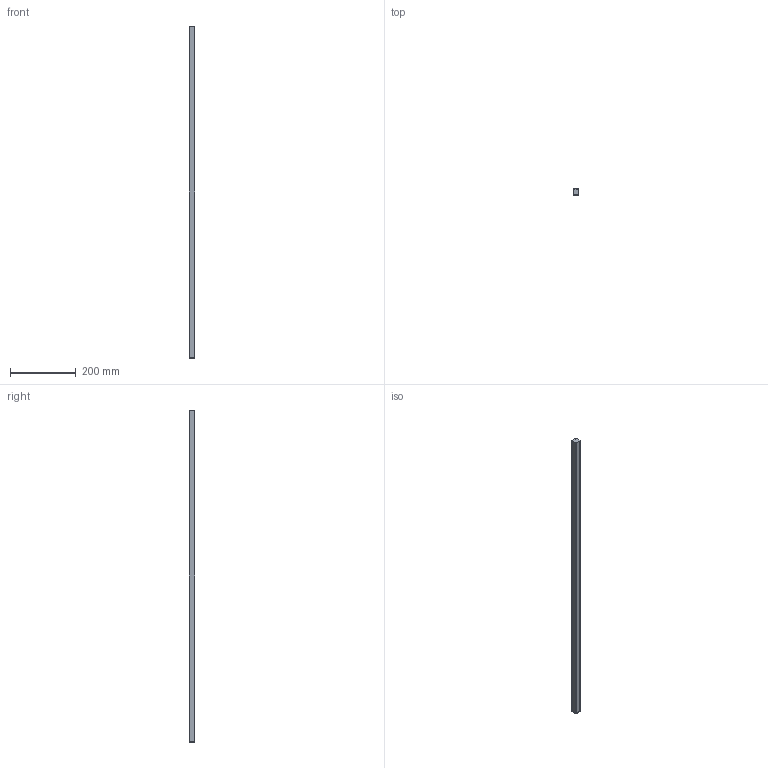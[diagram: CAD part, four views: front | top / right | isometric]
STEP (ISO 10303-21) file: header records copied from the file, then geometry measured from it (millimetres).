
FILE_DESCRIPTION (( 'STEP AP214' ), '1' );
FILE_NAME ('mLight_Nano LED_1010mm.STEP', '2017-03-14T00:26:15', ( 'GR' ), ( 'Hewlett-Packard Company' ), 'SwSTEP 2.0', 'SolidWorks 2017', '' );
FILE_SCHEMA (( 'AUTOMOTIVE_DESIGN' ));
Length unit declared in the file: millimetre
Products named in the file (1): mLight_Nano LED_1010mm
Bounding box: 17.51 x 17.5 x 1010 mm (x, y, z)
Volume: 266126 mm3; surface area: 79625.8 mm2
Topology: 3 solids, 3 shells, 51 faces, 135 edges, 90 vertices
Faces by surface type: plane 30, cylinder 21
Entity records: 1764 total; most frequent: DIRECTION 281, CARTESIAN_POINT 277, ORIENTED_EDGE 270, EDGE_CURVE 135, AXIS2_PLACEMENT_3D 94, LINE 93, VECTOR 93, VERTEX_POINT 90
